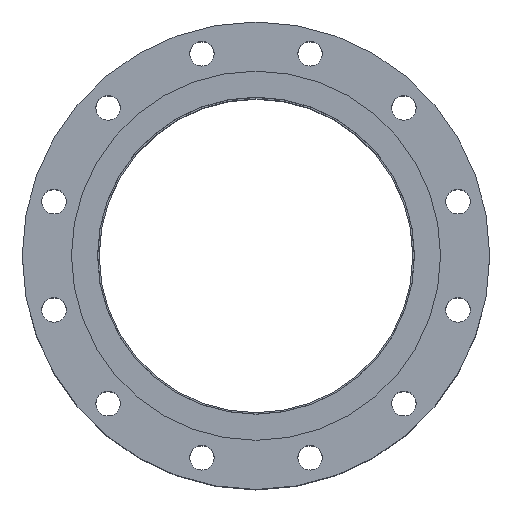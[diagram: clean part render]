
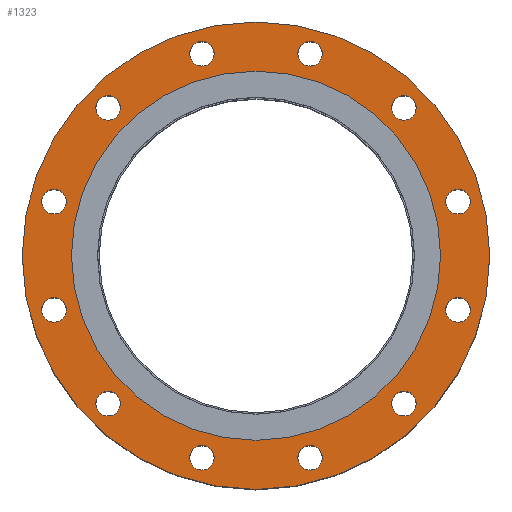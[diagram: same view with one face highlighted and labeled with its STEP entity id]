
A CAD part, top view. The second image highlights one B-rep face of the part: STEP entity #1323.
In plain terms, the highlighted planar face has unit normal (0, 0, 1).
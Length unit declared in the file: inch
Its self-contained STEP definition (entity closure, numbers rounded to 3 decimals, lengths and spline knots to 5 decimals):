
#88=FACE_BOUND('',#351,.T.);
#89=FACE_BOUND('',#352,.T.);
#90=FACE_BOUND('',#353,.T.);
#91=FACE_BOUND('',#354,.T.);
#92=FACE_BOUND('',#355,.T.);
#93=FACE_BOUND('',#356,.T.);
#94=FACE_BOUND('',#357,.T.);
#95=FACE_BOUND('',#358,.T.);
#96=FACE_BOUND('',#359,.T.);
#97=FACE_BOUND('',#360,.T.);
#98=FACE_BOUND('',#361,.T.);
#99=FACE_BOUND('',#362,.T.);
#100=FACE_BOUND('',#363,.T.);
#142=PLANE('',#1508);
#237=FACE_OUTER_BOUND('',#350,.T.);
#350=EDGE_LOOP('',(#1037));
#351=EDGE_LOOP('',(#1038));
#352=EDGE_LOOP('',(#1039));
#353=EDGE_LOOP('',(#1040));
#354=EDGE_LOOP('',(#1041));
#355=EDGE_LOOP('',(#1042));
#356=EDGE_LOOP('',(#1043));
#357=EDGE_LOOP('',(#1044));
#358=EDGE_LOOP('',(#1045));
#359=EDGE_LOOP('',(#1046));
#360=EDGE_LOOP('',(#1047));
#361=EDGE_LOOP('',(#1048));
#362=EDGE_LOOP('',(#1049));
#363=EDGE_LOOP('',(#1050));
#519=CIRCLE('',#1451,0.5);
#521=CIRCLE('',#1454,0.5);
#523=CIRCLE('',#1457,0.5);
#525=CIRCLE('',#1460,0.5);
#527=CIRCLE('',#1463,0.5);
#529=CIRCLE('',#1466,0.5);
#531=CIRCLE('',#1469,0.5);
#533=CIRCLE('',#1472,0.5);
#535=CIRCLE('',#1475,0.5);
#537=CIRCLE('',#1478,0.5);
#539=CIRCLE('',#1481,0.5);
#541=CIRCLE('',#1484,0.5);
#554=CIRCLE('',#1503,7.5);
#556=CIRCLE('',#1507,9.5);
#667=VERTEX_POINT('',#2266);
#669=VERTEX_POINT('',#2272);
#671=VERTEX_POINT('',#2278);
#673=VERTEX_POINT('',#2284);
#675=VERTEX_POINT('',#2290);
#677=VERTEX_POINT('',#2296);
#679=VERTEX_POINT('',#2302);
#681=VERTEX_POINT('',#2308);
#683=VERTEX_POINT('',#2314);
#685=VERTEX_POINT('',#2320);
#687=VERTEX_POINT('',#2326);
#689=VERTEX_POINT('',#2332);
#700=VERTEX_POINT('',#2364);
#702=VERTEX_POINT('',#2371);
#779=EDGE_CURVE('',#667,#667,#519,.T.);
#782=EDGE_CURVE('',#669,#669,#521,.T.);
#785=EDGE_CURVE('',#671,#671,#523,.T.);
#788=EDGE_CURVE('',#673,#673,#525,.T.);
#791=EDGE_CURVE('',#675,#675,#527,.T.);
#794=EDGE_CURVE('',#677,#677,#529,.T.);
#797=EDGE_CURVE('',#679,#679,#531,.T.);
#800=EDGE_CURVE('',#681,#681,#533,.T.);
#803=EDGE_CURVE('',#683,#683,#535,.T.);
#806=EDGE_CURVE('',#685,#685,#537,.T.);
#809=EDGE_CURVE('',#687,#687,#539,.T.);
#812=EDGE_CURVE('',#689,#689,#541,.T.);
#828=EDGE_CURVE('',#700,#700,#554,.T.);
#830=EDGE_CURVE('',#702,#702,#556,.T.);
#1037=ORIENTED_EDGE('',*,*,#830,.T.);
#1038=ORIENTED_EDGE('',*,*,#779,.T.);
#1039=ORIENTED_EDGE('',*,*,#782,.T.);
#1040=ORIENTED_EDGE('',*,*,#785,.T.);
#1041=ORIENTED_EDGE('',*,*,#788,.T.);
#1042=ORIENTED_EDGE('',*,*,#791,.T.);
#1043=ORIENTED_EDGE('',*,*,#794,.T.);
#1044=ORIENTED_EDGE('',*,*,#797,.T.);
#1045=ORIENTED_EDGE('',*,*,#800,.T.);
#1046=ORIENTED_EDGE('',*,*,#803,.T.);
#1047=ORIENTED_EDGE('',*,*,#806,.T.);
#1048=ORIENTED_EDGE('',*,*,#809,.T.);
#1049=ORIENTED_EDGE('',*,*,#812,.T.);
#1050=ORIENTED_EDGE('',*,*,#828,.T.);
#1323=ADVANCED_FACE('',(#237,#88,#89,#90,#91,#92,#93,#94,#95,#96,#97,#98,
#99,#100),#142,.T.);
#1451=AXIS2_PLACEMENT_3D('',#2267,#1719,#1720);
#1454=AXIS2_PLACEMENT_3D('',#2273,#1726,#1727);
#1457=AXIS2_PLACEMENT_3D('',#2279,#1733,#1734);
#1460=AXIS2_PLACEMENT_3D('',#2285,#1740,#1741);
#1463=AXIS2_PLACEMENT_3D('',#2291,#1747,#1748);
#1466=AXIS2_PLACEMENT_3D('',#2297,#1754,#1755);
#1469=AXIS2_PLACEMENT_3D('',#2303,#1761,#1762);
#1472=AXIS2_PLACEMENT_3D('',#2309,#1768,#1769);
#1475=AXIS2_PLACEMENT_3D('',#2315,#1775,#1776);
#1478=AXIS2_PLACEMENT_3D('',#2321,#1782,#1783);
#1481=AXIS2_PLACEMENT_3D('',#2327,#1789,#1790);
#1484=AXIS2_PLACEMENT_3D('',#2333,#1796,#1797);
#1503=AXIS2_PLACEMENT_3D('',#2366,#1837,#1838);
#1507=AXIS2_PLACEMENT_3D('',#2372,#1845,#1846);
#1508=AXIS2_PLACEMENT_3D('',#2374,#1848,#1849);
#1719=DIRECTION('center_axis',(0.,0.,-1.));
#1720=DIRECTION('ref_axis',(0.866,-0.5,0.));
#1726=DIRECTION('center_axis',(0.,0.,-1.));
#1727=DIRECTION('ref_axis',(0.5,-0.866,0.));
#1733=DIRECTION('center_axis',(0.,0.,-1.));
#1734=DIRECTION('ref_axis',(0.,-1.,0.));
#1740=DIRECTION('center_axis',(0.,0.,-1.));
#1741=DIRECTION('ref_axis',(-0.5,-0.866,0.));
#1747=DIRECTION('center_axis',(0.,0.,-1.));
#1748=DIRECTION('ref_axis',(-0.866,-0.5,0.));
#1754=DIRECTION('center_axis',(0.,0.,-1.));
#1755=DIRECTION('ref_axis',(-1.,0.,0.));
#1761=DIRECTION('center_axis',(0.,0.,-1.));
#1762=DIRECTION('ref_axis',(-0.866,0.5,0.));
#1768=DIRECTION('center_axis',(0.,0.,-1.));
#1769=DIRECTION('ref_axis',(-0.5,0.866,0.));
#1775=DIRECTION('center_axis',(0.,0.,-1.));
#1776=DIRECTION('ref_axis',(0.,1.,0.));
#1782=DIRECTION('center_axis',(0.,0.,-1.));
#1783=DIRECTION('ref_axis',(0.5,0.866,0.));
#1789=DIRECTION('center_axis',(0.,0.,-1.));
#1790=DIRECTION('ref_axis',(0.866,0.5,0.));
#1796=DIRECTION('center_axis',(0.,0.,-1.));
#1797=DIRECTION('ref_axis',(1.,0.,0.));
#1837=DIRECTION('center_axis',(0.,0.,-1.));
#1838=DIRECTION('ref_axis',(0.,1.,0.));
#1845=DIRECTION('center_axis',(0.,0.,1.));
#1846=DIRECTION('ref_axis',(1.,0.,0.));
#1848=DIRECTION('center_axis',(0.,0.,1.));
#1849=DIRECTION('ref_axis',(1.,0.,0.));
#2266=CARTESIAN_POINT('',(1.76695,8.46037,0.595));
#2267=CARTESIAN_POINT('Origin',(2.19996,8.21037,0.595));
#2272=CARTESIAN_POINT('',(5.76041,6.44342,0.595));
#2273=CARTESIAN_POINT('Origin',(6.01041,6.01041,0.595));
#2278=CARTESIAN_POINT('',(8.21037,2.69996,0.595));
#2279=CARTESIAN_POINT('Origin',(8.21037,2.19996,0.595));
#2284=CARTESIAN_POINT('',(8.46037,-1.76695,0.595));
#2285=CARTESIAN_POINT('Origin',(8.21037,-2.19996,0.595));
#2290=CARTESIAN_POINT('',(6.44342,-5.76041,0.595));
#2291=CARTESIAN_POINT('Origin',(6.01041,-6.01041,0.595));
#2296=CARTESIAN_POINT('',(2.69996,-8.21037,0.595));
#2297=CARTESIAN_POINT('Origin',(2.19996,-8.21037,0.595));
#2302=CARTESIAN_POINT('',(-1.76695,-8.46037,0.595));
#2303=CARTESIAN_POINT('Origin',(-2.19996,-8.21037,0.595));
#2308=CARTESIAN_POINT('',(-5.76041,-6.44342,0.595));
#2309=CARTESIAN_POINT('Origin',(-6.01041,-6.01041,0.595));
#2314=CARTESIAN_POINT('',(-8.21037,-2.69996,0.595));
#2315=CARTESIAN_POINT('Origin',(-8.21037,-2.19996,0.595));
#2320=CARTESIAN_POINT('',(-8.46037,1.76695,0.595));
#2321=CARTESIAN_POINT('Origin',(-8.21037,2.19996,0.595));
#2326=CARTESIAN_POINT('',(-6.44342,5.76041,0.595));
#2327=CARTESIAN_POINT('Origin',(-6.01041,6.01041,0.595));
#2332=CARTESIAN_POINT('',(-2.69996,8.21037,0.595));
#2333=CARTESIAN_POINT('Origin',(-2.19996,8.21037,0.595));
#2364=CARTESIAN_POINT('',(0.,-7.5,0.595));
#2366=CARTESIAN_POINT('Origin',(0.,0.,0.595));
#2371=CARTESIAN_POINT('',(0.,-9.5,0.595));
#2372=CARTESIAN_POINT('Origin',(0.,0.,0.595));
#2374=CARTESIAN_POINT('Origin',(0.,6.44,0.595));
